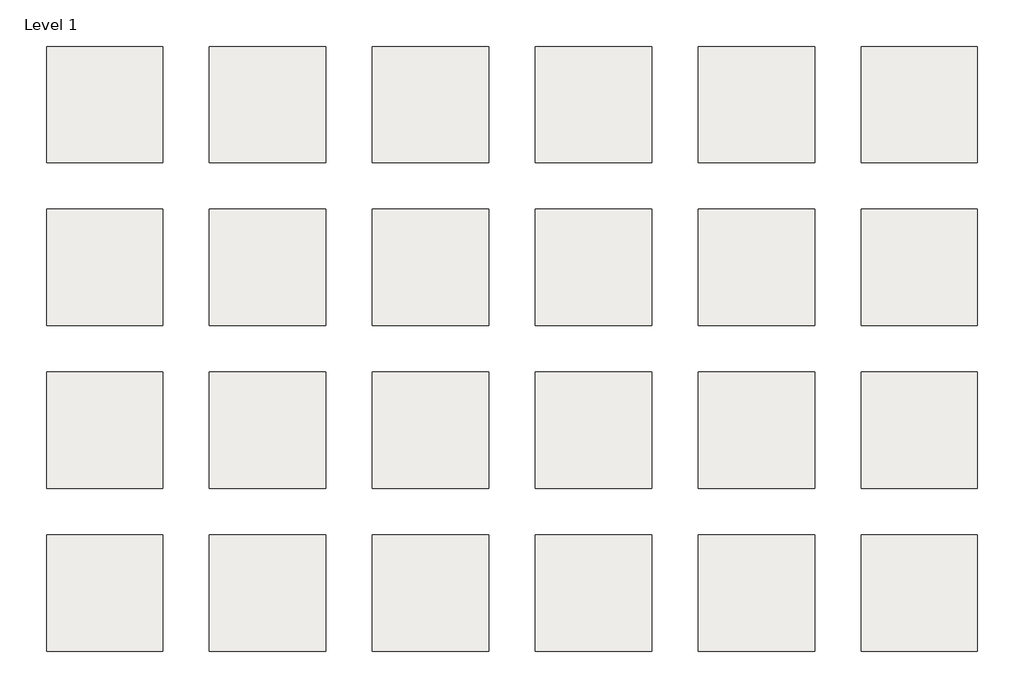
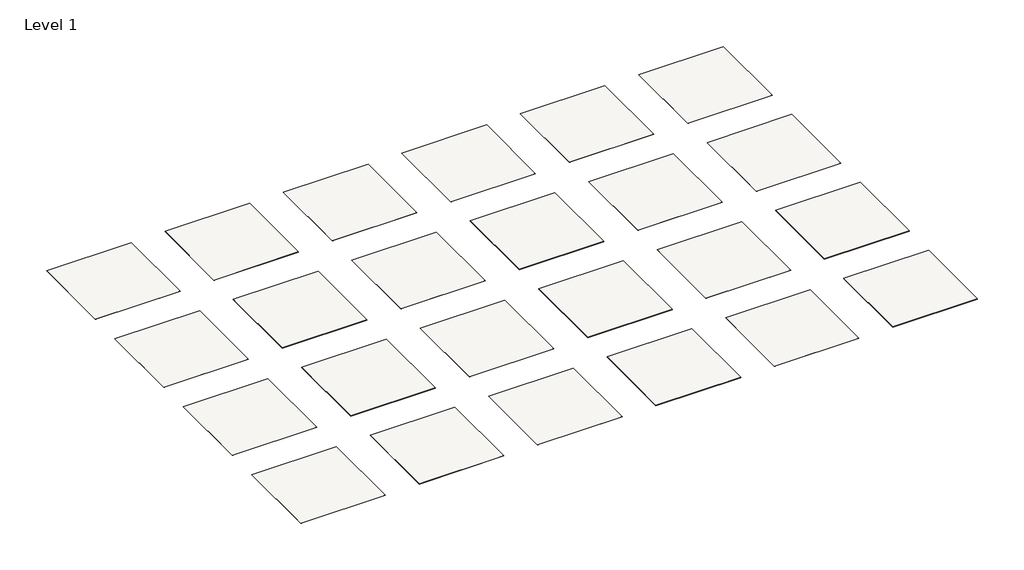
# One storey: 24 slabs.
"""IFC4 building model written with IfcOpenShell, lengths in millimetres."""

from ifc_helpers import new_model, si_unit, frame, origin, place, context, project, spatial, polyline, outline, extrude, element, save

model = new_model("IFC4")

# Units and contexts
model_context = context("Model", 3, world=origin())
ifc_project = project(units=[si_unit("LENGTHUNIT", "METRE", prefix="MILLI")], contexts=[model_context])

# Site, building, storey
site = spatial("IfcSite", under=ifc_project)
building = spatial("IfcBuilding", under=site)
storey = spatial("IfcBuildingStorey", under=building, Name="Level 1", Elevation=0.0)

# Slabs
placement = place(None, origin())
element("IfcSlab", 1, ObjectType="Armstrong Flooring_Accolade Plus_5A002_mountain moss", at=placement, inside=storey, context=model_context, shape_type="SweptSolid", body=[
    extrude(outline(polyline([(1219.2, 6400.8), (1219.2, 4876.8), (-304.8, 4876.8), (-304.8, 6400.8), (1219.2, 6400.8)])), frame((0.0, 0.0, -3.175), z_axis=(0.0, 0.0, 1.0), x_axis=(1.0, 0.0, 0.0)), (0.0, 0.0, 1.0), 3.175),
])
element("IfcSlab", 2, ObjectType="Armstrong Flooring_Accolade Plus_5A003_parkland pine", at=placement, inside=storey, context=model_context, shape_type="SweptSolid", body=[
    extrude(outline(polyline([(3352.8, 6400.8), (3352.8, 4876.8), (1828.8, 4876.8), (1828.8, 6400.8), (3352.8, 6400.8)])), frame((0.0, 0.0, -3.175), z_axis=(0.0, 0.0, 1.0), x_axis=(1.0, 0.0, 0.0)), (0.0, 0.0, 1.0), 3.175),
])
element("IfcSlab", 3, ObjectType="Armstrong Flooring_Accolade Plus_5A005_turquoise bay", at=placement, inside=storey, context=model_context, shape_type="SweptSolid", body=[
    extrude(outline(polyline([(5486.4, 6400.8), (5486.4, 4876.8), (3962.4, 4876.8), (3962.4, 6400.8), (5486.4, 6400.8)])), frame((0.0, 0.0, -3.175), z_axis=(0.0, 0.0, 1.0), x_axis=(1.0, 0.0, 0.0)), (0.0, 0.0, 1.0), 3.175),
])
element("IfcSlab", 4, ObjectType="Armstrong Flooring_Accolade Plus_5A006_sovereign gold", at=placement, inside=storey, context=model_context, shape_type="SweptSolid", body=[
    extrude(outline(polyline([(7620.0, 6400.8), (7620.0, 4876.8), (6096.0, 4876.8), (6096.0, 6400.8), (7620.0, 6400.8)])), frame((0.0, 0.0, -3.175), z_axis=(0.0, 0.0, 1.0), x_axis=(1.0, 0.0, 0.0)), (0.0, 0.0, 1.0), 3.175),
])
element("IfcSlab", 5, ObjectType="Armstrong Flooring_Accolade Plus_5A007_tanami", at=placement, inside=storey, context=model_context, shape_type="SweptSolid", body=[
    extrude(outline(polyline([(9753.6, 6400.8), (9753.6, 4876.8), (8229.6, 4876.8), (8229.6, 6400.8), (9753.6, 6400.8)])), frame((0.0, 0.0, -3.175), z_axis=(0.0, 0.0, 1.0), x_axis=(1.0, 0.0, 0.0)), (0.0, 0.0, 1.0), 3.175),
])
element("IfcSlab", 6, ObjectType="Armstrong Flooring_Accolade Plus_5A020_collins grey", at=placement, inside=storey, context=model_context, shape_type="SweptSolid", body=[
    extrude(outline(polyline([(11887.2, 6400.8), (11887.2, 4876.8), (10363.2, 4876.8), (10363.2, 6400.8), (11887.2, 6400.8)])), frame((0.0, 0.0, -3.175), z_axis=(0.0, 0.0, 1.0), x_axis=(1.0, 0.0, 0.0)), (0.0, 0.0, 1.0), 3.175),
])
element("IfcSlab", 7, ObjectType="Armstrong Flooring_Accolade Plus_5A021_cloudy", at=placement, inside=storey, context=model_context, shape_type="SweptSolid", body=[
    extrude(outline(polyline([(1219.2, 4267.2), (1219.2, 2743.2), (-304.8, 2743.2), (-304.8, 4267.2), (1219.2, 4267.2)])), frame((0.0, 0.0, -3.175), z_axis=(0.0, 0.0, 1.0), x_axis=(1.0, 0.0, 0.0)), (0.0, 0.0, 1.0), 3.175),
])
element("IfcSlab", 8, ObjectType="Armstrong Flooring_Accolade Plus_5A049_bell", at=placement, inside=storey, context=model_context, shape_type="SweptSolid", body=[
    extrude(outline(polyline([(3352.8, 4267.2), (3352.8, 2743.2), (1828.8, 2743.2), (1828.8, 4267.2), (3352.8, 4267.2)])), frame((0.0, 0.0, -3.175), z_axis=(0.0, 0.0, 1.0), x_axis=(1.0, 0.0, 0.0)), (0.0, 0.0, 1.0), 3.175),
])
element("IfcSlab", 9, ObjectType="Armstrong Flooring_Accolade Plus_5A056_spice white", at=placement, inside=storey, context=model_context, shape_type="SweptSolid", body=[
    extrude(outline(polyline([(5486.4, 4267.2), (5486.4, 2743.2), (3962.4, 2743.2), (3962.4, 4267.2), (5486.4, 4267.2)])), frame((0.0, 0.0, -3.175), z_axis=(0.0, 0.0, 1.0), x_axis=(1.0, 0.0, 0.0)), (0.0, 0.0, 1.0), 3.175),
])
element("IfcSlab", 10, ObjectType="Armstrong Flooring_Accolade Plus_5A057_cappuccino", at=placement, inside=storey, context=model_context, shape_type="SweptSolid", body=[
    extrude(outline(polyline([(7620.0, 4267.2), (7620.0, 2743.2), (6096.0, 2743.2), (6096.0, 4267.2), (7620.0, 4267.2)])), frame((0.0, 0.0, -3.175), z_axis=(0.0, 0.0, 1.0), x_axis=(1.0, 0.0, 0.0)), (0.0, 0.0, 1.0), 3.175),
])
element("IfcSlab", 11, ObjectType="Armstrong Flooring_Accolade Plus_5A061_ironbark", at=placement, inside=storey, context=model_context, shape_type="SweptSolid", body=[
    extrude(outline(polyline([(9753.6, 4267.2), (9753.6, 2743.2), (8229.6, 2743.2), (8229.6, 4267.2), (9753.6, 4267.2)])), frame((0.0, 0.0, -3.175), z_axis=(0.0, 0.0, 1.0), x_axis=(1.0, 0.0, 0.0)), (0.0, 0.0, 1.0), 3.175),
])
element("IfcSlab", 12, ObjectType="Armstrong Flooring_Accolade Plus_5A062_black opal", at=placement, inside=storey, context=model_context, shape_type="SweptSolid", body=[
    extrude(outline(polyline([(11887.2, 4267.2), (11887.2, 2743.2), (10363.2, 2743.2), (10363.2, 4267.2), (11887.2, 4267.2)])), frame((0.0, 0.0, -3.175), z_axis=(0.0, 0.0, 1.0), x_axis=(1.0, 0.0, 0.0)), (0.0, 0.0, 1.0), 3.175),
])
element("IfcSlab", 13, ObjectType="Armstrong Flooring_Accolade Plus_5A072_darling grey", at=placement, inside=storey, context=model_context, shape_type="SweptSolid", body=[
    extrude(outline(polyline([(1219.2, 2133.6), (1219.2, 609.6), (-304.8, 609.6), (-304.8, 2133.6), (1219.2, 2133.6)])), frame((0.0, 0.0, -3.175), z_axis=(0.0, 0.0, 1.0), x_axis=(1.0, 0.0, 0.0)), (0.0, 0.0, 1.0), 3.175),
])
element("IfcSlab", 14, ObjectType="Armstrong Flooring_Accolade Plus_5A073_capricorn beige", at=placement, inside=storey, context=model_context, shape_type="SweptSolid", body=[
    extrude(outline(polyline([(3352.8, 2133.6), (3352.8, 609.6), (1828.8, 609.6), (1828.8, 2133.6), (3352.8, 2133.6)])), frame((0.0, 0.0, -3.175), z_axis=(0.0, 0.0, 1.0), x_axis=(1.0, 0.0, 0.0)), (0.0, 0.0, 1.0), 3.175),
])
element("IfcSlab", 15, ObjectType="Armstrong Flooring_Accolade Plus_5A074_sand bond", at=placement, inside=storey, context=model_context, shape_type="SweptSolid", body=[
    extrude(outline(polyline([(5486.4, 2133.6), (5486.4, 609.6), (3962.4, 609.6), (3962.4, 2133.6), (5486.4, 2133.6)])), frame((0.0, 0.0, -3.175), z_axis=(0.0, 0.0, 1.0), x_axis=(1.0, 0.0, 0.0)), (0.0, 0.0, 1.0), 3.175),
])
element("IfcSlab", 16, ObjectType="Armstrong Flooring_Accolade Plus_5A076_sterling grey", at=placement, inside=storey, context=model_context, shape_type="SweptSolid", body=[
    extrude(outline(polyline([(7620.0, 2133.6), (7620.0, 609.6), (6096.0, 609.6), (6096.0, 2133.6), (7620.0, 2133.6)])), frame((0.0, 0.0, -3.175), z_axis=(0.0, 0.0, 1.0), x_axis=(1.0, 0.0, 0.0)), (0.0, 0.0, 1.0), 3.175),
])
element("IfcSlab", 17, ObjectType="Armstrong Flooring_Accolade Plus_5A078_byron blue", at=placement, inside=storey, context=model_context, shape_type="SweptSolid", body=[
    extrude(outline(polyline([(9753.6, 2133.6), (9753.6, 609.6), (8229.6, 609.6), (8229.6, 2133.6), (9753.6, 2133.6)])), frame((0.0, 0.0, -3.175), z_axis=(0.0, 0.0, 1.0), x_axis=(1.0, 0.0, 0.0)), (0.0, 0.0, 1.0), 3.175),
])
element("IfcSlab", 18, ObjectType="Armstrong Flooring_Accolade Plus_5A090_misty blue", at=placement, inside=storey, context=model_context, shape_type="SweptSolid", body=[
    extrude(outline(polyline([(11887.2, 2133.6), (11887.2, 609.6), (10363.2, 609.6), (10363.2, 2133.6), (11887.2, 2133.6)])), frame((0.0, 0.0, -3.175), z_axis=(0.0, 0.0, 1.0), x_axis=(1.0, 0.0, 0.0)), (0.0, 0.0, 1.0), 3.175),
])
element("IfcSlab", 19, ObjectType="Armstrong Flooring_Accolade Plus_5A091_mallee wheat", at=placement, inside=storey, context=model_context, shape_type="SweptSolid", body=[
    extrude(outline(polyline([(1219.2, 0.0), (1219.2, -1524.0), (-304.8, -1524.0), (-304.8, 0.0), (1219.2, 0.0)])), frame((0.0, 0.0, -3.175), z_axis=(0.0, 0.0, 1.0), x_axis=(1.0, 0.0, 0.0)), (0.0, 0.0, 1.0), 3.175),
])
element("IfcSlab", 20, ObjectType="Armstrong Flooring_Accolade Plus_5A092_mulch", at=placement, inside=storey, context=model_context, shape_type="SweptSolid", body=[
    extrude(outline(polyline([(3352.8, 0.0), (3352.8, -1524.0), (1828.8, -1524.0), (1828.8, 0.0), (3352.8, 0.0)])), frame((0.0, 0.0, -3.175), z_axis=(0.0, 0.0, 1.0), x_axis=(1.0, 0.0, 0.0)), (0.0, 0.0, 1.0), 3.175),
])
element("IfcSlab", 21, ObjectType="Armstrong Flooring_Accolade Plus_5A095_blue lake", at=placement, inside=storey, context=model_context, shape_type="SweptSolid", body=[
    extrude(outline(polyline([(5486.4, 0.0), (5486.4, -1524.0), (3962.4, -1524.0), (3962.4, 0.0), (5486.4, 0.0)])), frame((0.0, 0.0, -3.175), z_axis=(0.0, 0.0, 1.0), x_axis=(1.0, 0.0, 0.0)), (0.0, 0.0, 1.0), 3.175),
])
element("IfcSlab", 22, ObjectType="Armstrong Flooring_Accolade Plus_5A097_riverina plum", at=placement, inside=storey, context=model_context, shape_type="SweptSolid", body=[
    extrude(outline(polyline([(7620.0, 0.0), (7620.0, -1524.0), (6096.0, -1524.0), (6096.0, 0.0), (7620.0, 0.0)])), frame((0.0, 0.0, -3.175), z_axis=(0.0, 0.0, 1.0), x_axis=(1.0, 0.0, 0.0)), (0.0, 0.0, 1.0), 3.175),
])
element("IfcSlab", 23, ObjectType="Armstrong Flooring_Accolade Plus_5A098_maslin blue", at=placement, inside=storey, context=model_context, shape_type="SweptSolid", body=[
    extrude(outline(polyline([(9753.6, 0.0), (9753.6, -1524.0), (8229.6, -1524.0), (8229.6, 0.0), (9753.6, 0.0)])), frame((0.0, 0.0, -3.175), z_axis=(0.0, 0.0, 1.0), x_axis=(1.0, 0.0, 0.0)), (0.0, 0.0, 1.0), 3.175),
])
element("IfcSlab", 24, ObjectType="Armstrong Flooring_Accolade Plus_5A099_flamed", at=placement, inside=storey, context=model_context, shape_type="SweptSolid", body=[
    extrude(outline(polyline([(11887.2, 0.0), (11887.2, -1524.0), (10363.2, -1524.0), (10363.2, 0.0), (11887.2, 0.0)])), frame((0.0, 0.0, -3.175), z_axis=(0.0, 0.0, 1.0), x_axis=(1.0, 0.0, 0.0)), (0.0, 0.0, 1.0), 3.175),
])

save(model, "model.ifc")
